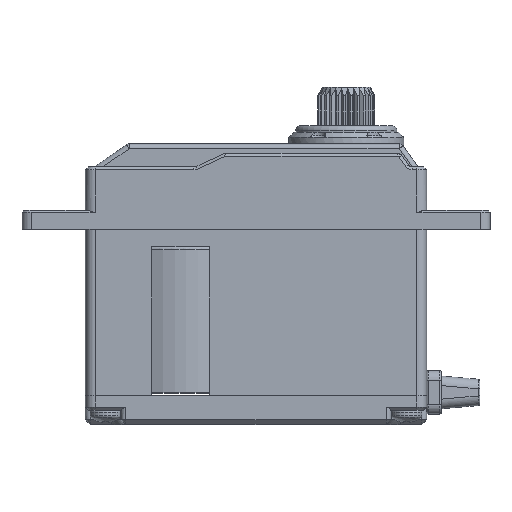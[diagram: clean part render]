
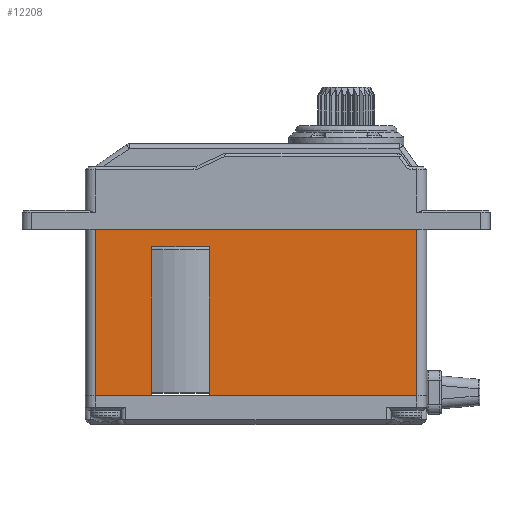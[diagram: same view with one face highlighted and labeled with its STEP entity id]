
A CAD part, top view. The second image highlights one B-rep face of the part: STEP entity #12208.
In plain terms, the highlighted planar face has unit normal (0, 0, 1).
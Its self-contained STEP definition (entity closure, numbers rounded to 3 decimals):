
#214=DIRECTION('',(1.,0.,0.));
#215=VECTOR('',#214,5.9);
#216=CARTESIAN_POINT('',(-16.75,-17.29,7.5));
#217=LINE('',#216,#215);
#218=DIRECTION('',(1.,0.,0.));
#219=VECTOR('',#218,33.5);
#220=CARTESIAN_POINT('',(-16.75,-0.01,7.5));
#221=LINE('',#220,#219);
#222=DIRECTION('',(1.,0.,0.));
#223=VECTOR('',#222,21.6);
#224=CARTESIAN_POINT('',(-4.85,-17.29,7.5));
#225=LINE('',#224,#223);
#226=DIRECTION('',(0.,1.,0.));
#227=VECTOR('',#226,15.49);
#228=CARTESIAN_POINT('',(-4.85,-17.29,7.5));
#229=LINE('',#228,#227);
#230=DIRECTION('',(1.,0.,0.));
#231=VECTOR('',#230,6.);
#232=CARTESIAN_POINT('',(-10.85,-1.8,7.5));
#233=LINE('',#232,#231);
#234=DIRECTION('',(0.,1.,0.));
#235=VECTOR('',#234,15.49);
#236=CARTESIAN_POINT('',(-10.85,-17.29,7.5));
#237=LINE('',#236,#235);
#7341=DIRECTION('',(0.,-1.,0.));
#7342=VECTOR('',#7341,17.28);
#7343=CARTESIAN_POINT('',(-16.75,-0.01,7.5));
#7344=LINE('',#7343,#7342);
#9663=DIRECTION('',(0.,1.,0.));
#9664=VECTOR('',#9663,17.28);
#9665=CARTESIAN_POINT('',(16.75,-17.29,7.5));
#9666=LINE('',#9665,#9664);
#10565=CARTESIAN_POINT('',(-10.85,-1.8,7.5));
#10566=CARTESIAN_POINT('',(-4.85,-1.8,7.5));
#10567=VERTEX_POINT('',#10565);
#10568=VERTEX_POINT('',#10566);
#11845=CARTESIAN_POINT('',(-16.75,-0.01,7.5));
#11846=CARTESIAN_POINT('',(16.75,-0.01,7.5));
#11847=VERTEX_POINT('',#11845);
#11848=VERTEX_POINT('',#11846);
#11909=CARTESIAN_POINT('',(-16.75,-17.29,7.5));
#11910=CARTESIAN_POINT('',(-10.85,-17.29,7.5));
#11911=VERTEX_POINT('',#11909);
#11912=VERTEX_POINT('',#11910);
#11913=CARTESIAN_POINT('',(-4.85,-17.29,7.5));
#11914=CARTESIAN_POINT('',(16.75,-17.29,7.5));
#11915=VERTEX_POINT('',#11913);
#11916=VERTEX_POINT('',#11914);
#12185=CARTESIAN_POINT('',(-17.75,0.,7.5));
#12186=DIRECTION('',(0.,0.,1.));
#12187=DIRECTION('',(1.,0.,0.));
#12188=AXIS2_PLACEMENT_3D('',#12185,#12186,#12187);
#12189=PLANE('',#12188);
#12191=ORIENTED_EDGE('',*,*,#12190,.F.);
#12193=ORIENTED_EDGE('',*,*,#12192,.F.);
#12195=ORIENTED_EDGE('',*,*,#12194,.T.);
#12197=ORIENTED_EDGE('',*,*,#12196,.F.);
#12199=ORIENTED_EDGE('',*,*,#12198,.F.);
#12201=ORIENTED_EDGE('',*,*,#12200,.T.);
#12203=ORIENTED_EDGE('',*,*,#12202,.F.);
#12205=ORIENTED_EDGE('',*,*,#12204,.F.);
#12206=EDGE_LOOP('',(#12191,#12193,#12195,#12197,#12199,#12201,#12203,#12205));
#12207=FACE_OUTER_BOUND('',#12206,.F.);
#12190=EDGE_CURVE('',#11911,#11912,#217,.T.);
#12192=EDGE_CURVE('',#11847,#11911,#7344,.T.);
#12194=EDGE_CURVE('',#11847,#11848,#221,.T.);
#12196=EDGE_CURVE('',#11916,#11848,#9666,.T.);
#12198=EDGE_CURVE('',#11915,#11916,#225,.T.);
#12200=EDGE_CURVE('',#11915,#10568,#229,.T.);
#12202=EDGE_CURVE('',#10567,#10568,#233,.T.);
#12204=EDGE_CURVE('',#11912,#10567,#237,.T.);
#12208=ADVANCED_FACE('',(#12207),#12189,.T.);
